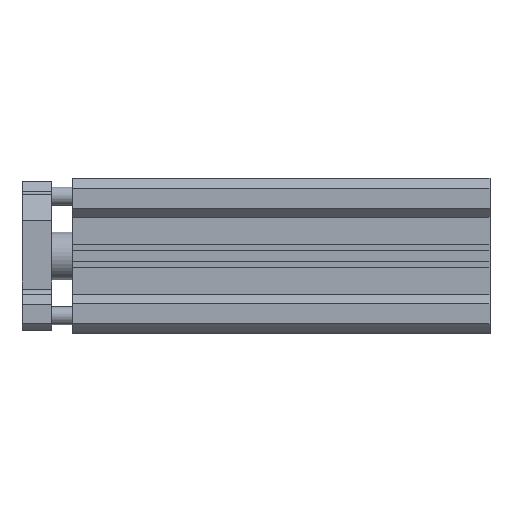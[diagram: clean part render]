
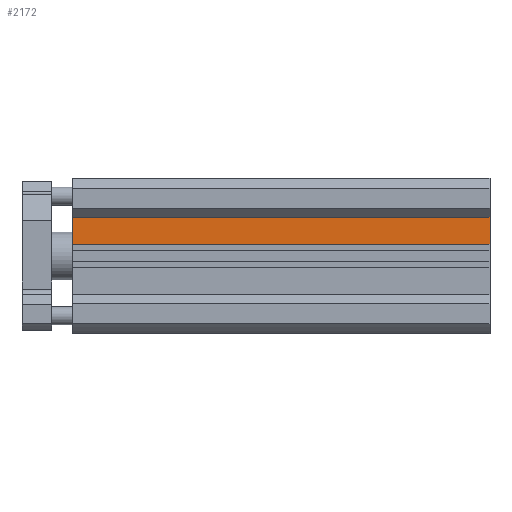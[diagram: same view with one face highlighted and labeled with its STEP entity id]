
A CAD part, front view. The second image highlights one B-rep face of the part: STEP entity #2172.
In plain terms, the highlighted planar face has unit normal (0, -1, 0).
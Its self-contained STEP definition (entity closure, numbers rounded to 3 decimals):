
#283 = CARTESIAN_POINT ( 'NONE',  ( 0., -23., 13. ) ) ;
#379 = CARTESIAN_POINT ( 'NONE',  ( 139.5, -23., 13. ) ) ;
#433 = EDGE_CURVE ( 'NONE', #2496, #576, #3814, .T. ) ;
#442 = EDGE_CURVE ( 'NONE', #576, #2131, #1081, .T. ) ;
#546 = CARTESIAN_POINT ( 'NONE',  ( 139.5, -23., 13. ) ) ;
#576 = VERTEX_POINT ( 'NONE', #3792 ) ;
#675 = EDGE_CURVE ( 'NONE', #2496, #2062, #2340, .T. ) ;
#848 = VECTOR ( 'NONE', #1389, 1000. ) ;
#849 = CARTESIAN_POINT ( 'NONE',  ( 0., -23., 4. ) ) ;
#894 = AXIS2_PLACEMENT_3D ( 'NONE', #546, #4792, #3252 ) ;
#934 = FACE_OUTER_BOUND ( 'NONE', #2569, .T. ) ;
#1038 = DIRECTION ( 'NONE',  ( -1., 0., 0. ) ) ;
#1081 = LINE ( 'NONE', #283, #4300 ) ;
#1326 = ORIENTED_EDGE ( 'NONE', *, *, #3587, .F. ) ;
#1389 = DIRECTION ( 'NONE',  ( -1., 0., 0. ) ) ;
#1416 = DIRECTION ( 'NONE',  ( 0., 0., -1. ) ) ;
#1855 = ORIENTED_EDGE ( 'NONE', *, *, #675, .F. ) ;
#1874 = CARTESIAN_POINT ( 'NONE',  ( 139.5, -23., 13. ) ) ;
#2062 = VERTEX_POINT ( 'NONE', #2410 ) ;
#2131 = VERTEX_POINT ( 'NONE', #849 ) ;
#2172 = ADVANCED_FACE ( 'NONE', ( #934 ), #2425, .F. ) ;
#2340 = LINE ( 'NONE', #379, #3646 ) ;
#2410 = CARTESIAN_POINT ( 'NONE',  ( 139.5, -23., 4. ) ) ;
#2425 = PLANE ( 'NONE',  #894 ) ;
#2496 = VERTEX_POINT ( 'NONE', #3082 ) ;
#2569 = EDGE_LOOP ( 'NONE', ( #3927, #1326, #1855, #3914 ) ) ;
#3082 = CARTESIAN_POINT ( 'NONE',  ( 139.5, -23., 13. ) ) ;
#3252 = DIRECTION ( 'NONE',  ( 1., 0., 0. ) ) ;
#3587 = EDGE_CURVE ( 'NONE', #2062, #2131, #3845, .T. ) ;
#3646 = VECTOR ( 'NONE', #4343, 1000. ) ;
#3792 = CARTESIAN_POINT ( 'NONE',  ( 0., -23., 13. ) ) ;
#3814 = LINE ( 'NONE', #1874, #848 ) ;
#3845 = LINE ( 'NONE', #4235, #3949 ) ;
#3914 = ORIENTED_EDGE ( 'NONE', *, *, #433, .T. ) ;
#3927 = ORIENTED_EDGE ( 'NONE', *, *, #442, .T. ) ;
#3949 = VECTOR ( 'NONE', #1038, 1000. ) ;
#4235 = CARTESIAN_POINT ( 'NONE',  ( 139.5, -23., 4. ) ) ;
#4300 = VECTOR ( 'NONE', #1416, 1000. ) ;
#4343 = DIRECTION ( 'NONE',  ( 0., 0., -1. ) ) ;
#4792 = DIRECTION ( 'NONE',  ( 0., 1., 0. ) ) ;
